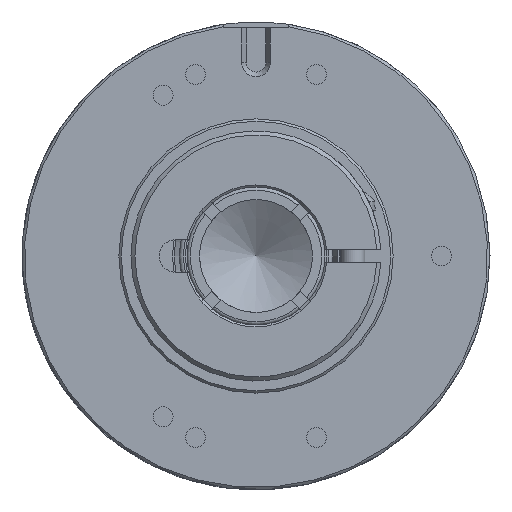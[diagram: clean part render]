
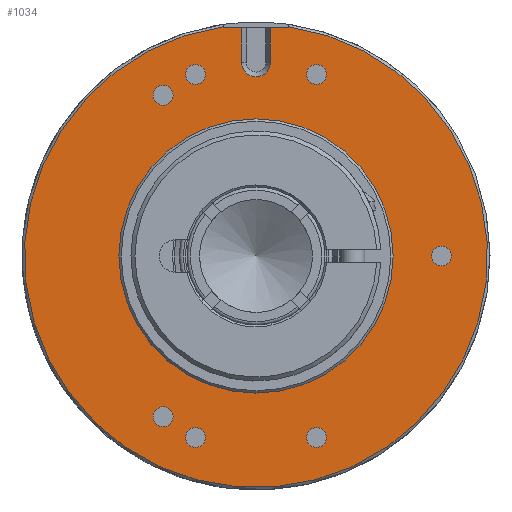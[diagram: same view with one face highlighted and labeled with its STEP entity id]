
A CAD part, left-side view. The second image highlights one B-rep face of the part: STEP entity #1034.
In plain terms, the highlighted planar face has unit normal (-1, 0, 0).
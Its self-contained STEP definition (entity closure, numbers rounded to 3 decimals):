
#1034 = ADVANCED_FACE( '', ( #2797, #2798, #2799, #2800, #2801, #2802, #2803, #2804, #2805 ), #2806, .T. );
#2797 = FACE_OUTER_BOUND( '', #7437, .T. );
#2798 = FACE_BOUND( '', #7438, .T. );
#2799 = FACE_BOUND( '', #7439, .T. );
#2800 = FACE_BOUND( '', #7440, .T. );
#2801 = FACE_BOUND( '', #7441, .T. );
#2802 = FACE_BOUND( '', #7442, .T. );
#2803 = FACE_BOUND( '', #7443, .T. );
#2804 = FACE_BOUND( '', #7444, .T. );
#2805 = FACE_BOUND( '', #7445, .T. );
#2806 = PLANE( '', #7446 );
#7437 = EDGE_LOOP( '', ( #22896, #22897, #22898, #22899, #22900, #22901, #22902, #22903 ) );
#7438 = EDGE_LOOP( '', ( #22904 ) );
#7439 = EDGE_LOOP( '', ( #22905 ) );
#7440 = EDGE_LOOP( '', ( #22906 ) );
#7441 = EDGE_LOOP( '', ( #22907 ) );
#7442 = EDGE_LOOP( '', ( #22908 ) );
#7443 = EDGE_LOOP( '', ( #22909 ) );
#7444 = EDGE_LOOP( '', ( #22910 ) );
#7445 = EDGE_LOOP( '', ( #22911 ) );
#7446 = AXIS2_PLACEMENT_3D( '', #22912, #22913, #22914 );
#22896 = ORIENTED_EDGE( '', *, *, #28524, .T. );
#22897 = ORIENTED_EDGE( '', *, *, #28926, .T. );
#22898 = ORIENTED_EDGE( '', *, *, #28927, .T. );
#22899 = ORIENTED_EDGE( '', *, *, #28928, .T. );
#22900 = ORIENTED_EDGE( '', *, *, #28530, .T. );
#22901 = ORIENTED_EDGE( '', *, *, #28929, .F. );
#22902 = ORIENTED_EDGE( '', *, *, #28930, .F. );
#22903 = ORIENTED_EDGE( '', *, *, #28931, .F. );
#22904 = ORIENTED_EDGE( '', *, *, #28932, .T. );
#22905 = ORIENTED_EDGE( '', *, *, #28933, .T. );
#22906 = ORIENTED_EDGE( '', *, *, #28934, .T. );
#22907 = ORIENTED_EDGE( '', *, *, #28396, .T. );
#22908 = ORIENTED_EDGE( '', *, *, #28724, .T. );
#22909 = ORIENTED_EDGE( '', *, *, #28935, .T. );
#22910 = ORIENTED_EDGE( '', *, *, #28936, .T. );
#22911 = ORIENTED_EDGE( '', *, *, #28937, .F. );
#22912 = CARTESIAN_POINT( '', ( 15., -19.789, 11.425 ) );
#22913 = DIRECTION( '', ( -1., 0., 0. ) );
#22914 = DIRECTION( '', ( 0., 0., 1. ) );
#28396 = EDGE_CURVE( '', #30985, #30985, #30986, .T. );
#28524 = EDGE_CURVE( '', #31217, #31214, #31218, .T. );
#28530 = EDGE_CURVE( '', #31229, #31227, #31230, .T. );
#28724 = EDGE_CURVE( '', #31575, #31575, #31576, .T. );
#28926 = EDGE_CURVE( '', #31214, #31918, #31919, .T. );
#28927 = EDGE_CURVE( '', #31918, #31920, #31921, .T. );
#28928 = EDGE_CURVE( '', #31920, #31229, #31922, .T. );
#28929 = EDGE_CURVE( '', #31923, #31227, #31924, .T. );
#28930 = EDGE_CURVE( '', #31925, #31923, #31926, .T. );
#28931 = EDGE_CURVE( '', #31217, #31925, #31927, .T. );
#28932 = EDGE_CURVE( '', #31928, #31928, #31929, .T. );
#28933 = EDGE_CURVE( '', #31930, #31930, #31931, .T. );
#28934 = EDGE_CURVE( '', #31932, #31932, #31933, .T. );
#28935 = EDGE_CURVE( '', #31934, #31934, #31935, .T. );
#28936 = EDGE_CURVE( '', #31936, #31936, #31937, .T. );
#28937 = EDGE_CURVE( '', #31938, #31938, #31939, .T. );
#30985 = VERTEX_POINT( '', #34737 );
#30986 = CIRCLE( '', #34738, 1.23 );
#31214 = VERTEX_POINT( '', #35472 );
#31217 = VERTEX_POINT( '', #35476 );
#31218 = LINE( '', #35477, #35478 );
#31227 = VERTEX_POINT( '', #35491 );
#31229 = VERTEX_POINT( '', #35494 );
#31230 = LINE( '', #35495, #35496 );
#31575 = VERTEX_POINT( '', #36636 );
#31576 = CIRCLE( '', #36637, 1.23 );
#31918 = VERTEX_POINT( '', #37558 );
#31919 = LINE( '', #37559, #37560 );
#31920 = VERTEX_POINT( '', #37561 );
#31921 = CIRCLE( '', #37562, 28.7 );
#31922 = LINE( '', #37563, #37564 );
#31923 = VERTEX_POINT( '', #37565 );
#31924 = LINE( '', #37566, #37567 );
#31925 = VERTEX_POINT( '', #37568 );
#31926 = CIRCLE( '', #37569, 1.78 );
#31927 = LINE( '', #37570, #37571 );
#31928 = VERTEX_POINT( '', #37572 );
#31929 = CIRCLE( '', #37573, 1.23 );
#31930 = VERTEX_POINT( '', #37574 );
#31931 = CIRCLE( '', #37575, 1.23 );
#31932 = VERTEX_POINT( '', #37576 );
#31933 = CIRCLE( '', #37577, 1.23 );
#31934 = VERTEX_POINT( '', #37578 );
#31935 = CIRCLE( '', #37579, 1.23 );
#31936 = VERTEX_POINT( '', #37580 );
#31937 = CIRCLE( '', #37581, 1.23 );
#31938 = VERTEX_POINT( '', #37582 );
#31939 = CIRCLE( '', #37583, 17. );
#34737 = CARTESIAN_POINT( '', ( 15., -24.065, 0.615 ) );
#34738 = AXIS2_PLACEMENT_3D( '', #45453, #45454, #45455 );
#35472 = CARTESIAN_POINT( '', ( 15., 4., 28.297 ) );
#35476 = CARTESIAN_POINT( '', ( 15., 1.778, 28.297 ) );
#35477 = CARTESIAN_POINT( '', ( 15., -4.102, 28.297 ) );
#35478 = VECTOR( '', #45561, 1000. );
#35491 = CARTESIAN_POINT( '', ( 15., -1.782, 28.297 ) );
#35494 = CARTESIAN_POINT( '', ( 15., -4., 28.297 ) );
#35495 = CARTESIAN_POINT( '', ( 15., -4.102, 28.297 ) );
#35496 = VECTOR( '', #45567, 1000. );
#36636 = CARTESIAN_POINT( '', ( 15., 10.435, 20.534 ) );
#36637 = AXIS2_PLACEMENT_3D( '', #45700, #45701, #45702 );
#37558 = CARTESIAN_POINT( '', ( 15., 4., 28.42 ) );
#37559 = CARTESIAN_POINT( '', ( 15., 4., 20.25 ) );
#37560 = VECTOR( '', #45876, 1000. );
#37561 = CARTESIAN_POINT( '', ( 15., -4., 28.42 ) );
#37562 = AXIS2_PLACEMENT_3D( '', #45877, #45878, #45879 );
#37563 = CARTESIAN_POINT( '', ( 15., -4., 20.25 ) );
#37564 = VECTOR( '', #45880, 1000. );
#37565 = CARTESIAN_POINT( '', ( 15., -1.782, 23.997 ) );
#37566 = CARTESIAN_POINT( '', ( 15., -1.782, 25.897 ) );
#37567 = VECTOR( '', #45881, 1000. );
#37568 = CARTESIAN_POINT( '', ( 15., 1.778, 23.997 ) );
#37569 = AXIS2_PLACEMENT_3D( '', #45882, #45883, #45884 );
#37570 = CARTESIAN_POINT( '', ( 15., 1.778, 25.897 ) );
#37571 = VECTOR( '', #45885, 1000. );
#37572 = CARTESIAN_POINT( '', ( 15., 10.435, -19.304 ) );
#37573 = AXIS2_PLACEMENT_3D( '', #45886, #45887, #45888 );
#37574 = CARTESIAN_POINT( '', ( 15., 6.435, -21.885 ) );
#37575 = AXIS2_PLACEMENT_3D( '', #45889, #45890, #45891 );
#37576 = CARTESIAN_POINT( '', ( 15., -8.565, -21.885 ) );
#37577 = AXIS2_PLACEMENT_3D( '', #45892, #45893, #45894 );
#37578 = CARTESIAN_POINT( '', ( 15., 6.435, 23.115 ) );
#37579 = AXIS2_PLACEMENT_3D( '', #45895, #45896, #45897 );
#37580 = CARTESIAN_POINT( '', ( 15., -8.565, 23.115 ) );
#37581 = AXIS2_PLACEMENT_3D( '', #45898, #45899, #45900 );
#37582 = CARTESIAN_POINT( '', ( 15., -14.722, 8.5 ) );
#37583 = AXIS2_PLACEMENT_3D( '', #45901, #45902, #45903 );
#45453 = CARTESIAN_POINT( '', ( 15., -23., 0. ) );
#45454 = DIRECTION( '', ( 1., 0., 0. ) );
#45455 = DIRECTION( '', ( 0., -0.866, 0.5 ) );
#45561 = DIRECTION( '', ( 0., 1., 0. ) );
#45567 = DIRECTION( '', ( 0., 1., 0. ) );
#45700 = CARTESIAN_POINT( '', ( 15., 11.5, 19.919 ) );
#45701 = DIRECTION( '', ( 1., 0., 0. ) );
#45702 = DIRECTION( '', ( 0., -0.866, 0.5 ) );
#45876 = DIRECTION( '', ( 0., 0., 1. ) );
#45877 = CARTESIAN_POINT( '', ( 15., 0., 0. ) );
#45878 = DIRECTION( '', ( -1., 0., 0. ) );
#45879 = DIRECTION( '', ( 0., -0.866, 0.5 ) );
#45880 = DIRECTION( '', ( 0., 0., -1. ) );
#45881 = DIRECTION( '', ( 0., 0., 1. ) );
#45882 = CARTESIAN_POINT( '', ( 15., -0.002, 23.997 ) );
#45883 = DIRECTION( '', ( -1., 0., 0. ) );
#45884 = DIRECTION( '', ( 0., 1., 0. ) );
#45885 = DIRECTION( '', ( 0., 0., -1. ) );
#45886 = CARTESIAN_POINT( '', ( 15., 11.5, -19.919 ) );
#45887 = DIRECTION( '', ( 1., 0., 0. ) );
#45888 = DIRECTION( '', ( 0., -0.866, 0.5 ) );
#45889 = CARTESIAN_POINT( '', ( 15., 7.5, -22.5 ) );
#45890 = DIRECTION( '', ( 1., 0., 0. ) );
#45891 = DIRECTION( '', ( 0., -0.866, 0.5 ) );
#45892 = CARTESIAN_POINT( '', ( 15., -7.5, -22.5 ) );
#45893 = DIRECTION( '', ( 1., 0., 0. ) );
#45894 = DIRECTION( '', ( 0., -0.866, 0.5 ) );
#45895 = CARTESIAN_POINT( '', ( 15., 7.5, 22.5 ) );
#45896 = DIRECTION( '', ( 1., 0., 0. ) );
#45897 = DIRECTION( '', ( 0., -0.866, 0.5 ) );
#45898 = CARTESIAN_POINT( '', ( 15., -7.5, 22.5 ) );
#45899 = DIRECTION( '', ( 1., 0., 0. ) );
#45900 = DIRECTION( '', ( 0., -0.866, 0.5 ) );
#45901 = CARTESIAN_POINT( '', ( 15., 0., 0. ) );
#45902 = DIRECTION( '', ( -1., 0., 0. ) );
#45903 = DIRECTION( '', ( 0., -0.866, 0.5 ) );
